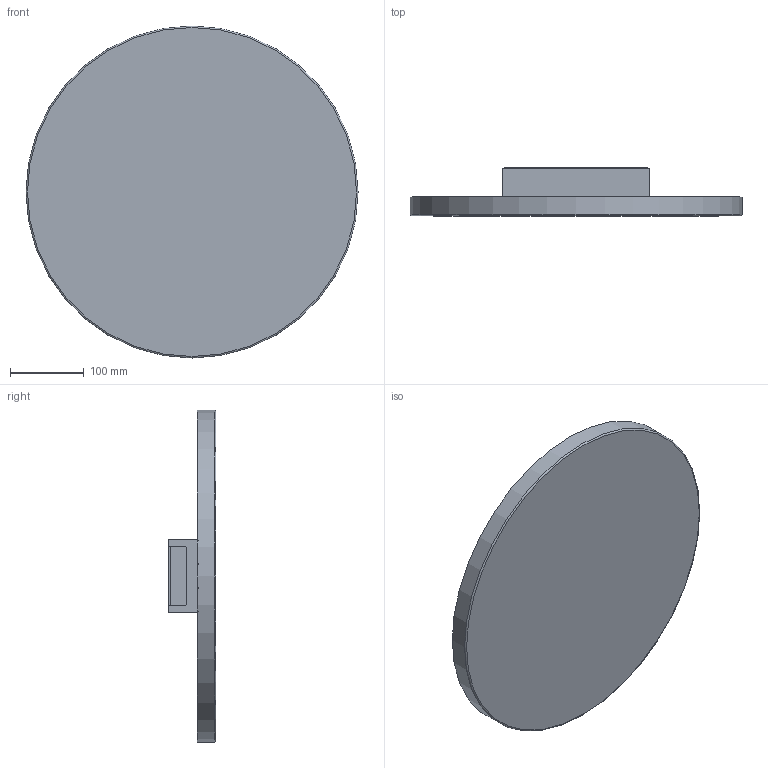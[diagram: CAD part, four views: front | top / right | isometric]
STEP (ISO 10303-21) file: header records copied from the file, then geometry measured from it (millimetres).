
FILE_DESCRIPTION(/* description */ (''),/* implementation_level */ '2;1');
FILE_NAME(/* name */ 'AURORA.stp',/* time_stamp */ '2023-07-31T08:50:46+02:00',/* author */ ('n.bisotti'),/* organization */ (''),/* preprocessor_version */ 'ST-DEVELOPER v19.2',/* originating_system */ 'Autodesk Inventor 2023',/* authorisation */ '');
FILE_SCHEMA (('AUTOMOTIVE_DESIGN { 1 0 10303 214 3 1 1 }'));
Length unit declared in the file: centimetre
Products named in the file (1): Parte1
Bounding box: 450 x 65 x 450 mm (x, y, z)
Volume: 3871001 mm3; surface area: 581824.3 mm2
Topology: 7 solids, 8 shells, 220 faces, 567 edges, 368 vertices
Faces by surface type: plane 151, cylinder 67, cone 1, torus 1
Full cylindrical faces by diameter (mm): 4 x1, 436 x1, 441 x1, 445.5 x1, 450 x1
Entity records: 6884 total; most frequent: CARTESIAN_POINT 1156, DIRECTION 1150, ORIENTED_EDGE 1132, EDGE_CURVE 567, LINE 426, VECTOR 426, VERTEX_POINT 368, AXIS2_PLACEMENT_3D 362
